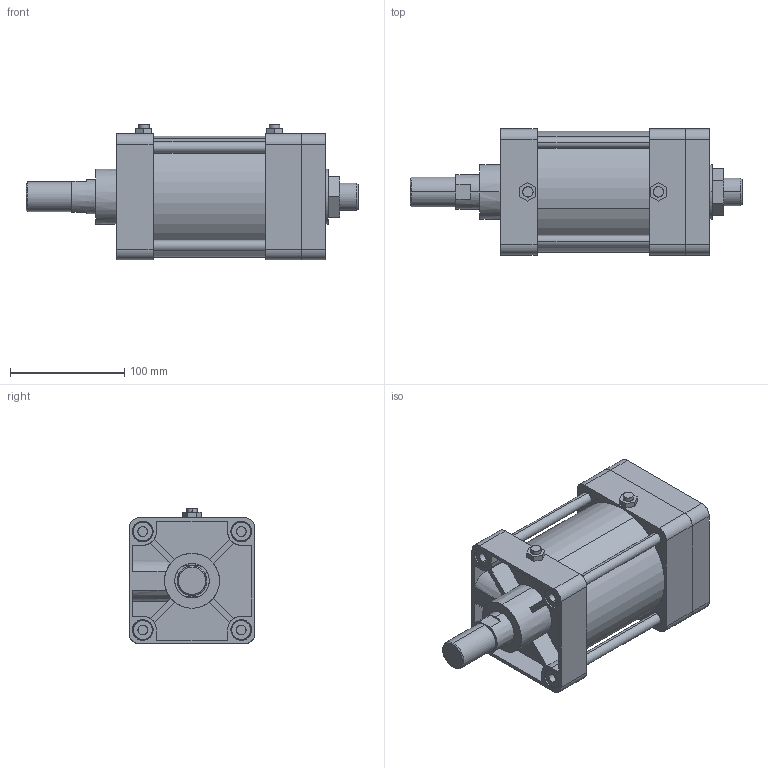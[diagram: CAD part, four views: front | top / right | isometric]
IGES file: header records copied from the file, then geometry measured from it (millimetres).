
Start section: SolidWorks IGES file using analytic representation for surfaces
Global section: file name: C:\Users\Toshiba\Desktop\KGA2-100#-50-N.IGS; native system: SolidWorks 2014; preprocessor: SolidWorks 2014; author: Toshiba; date: 160414.154628; units: millimetre
Bounding box: 290 x 110 x 118.3 mm (x, y, z)
Surface area: 243583.2 mm2 (no closed solid volume)
Topology: 0 solids, 0 shells, 344 faces, 5573 edges, 5569 vertices
Faces by surface type: bspline 185, revolution 159
